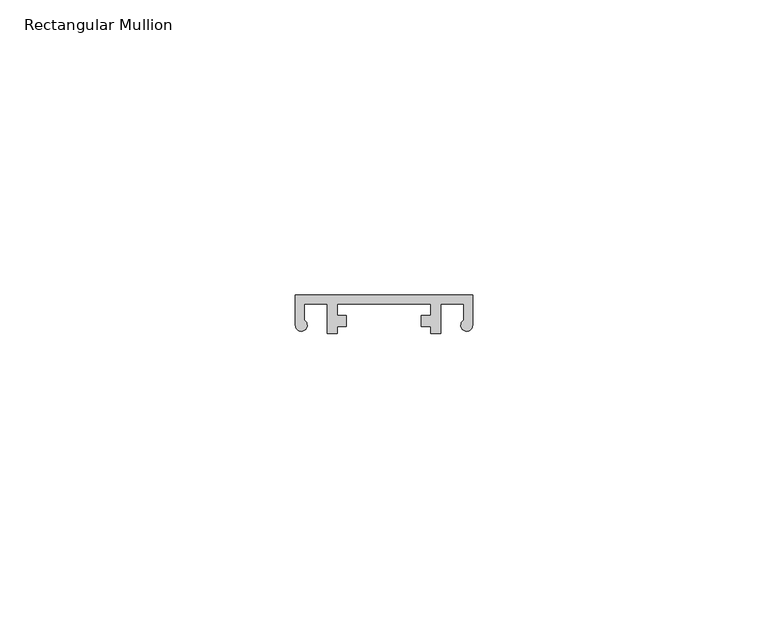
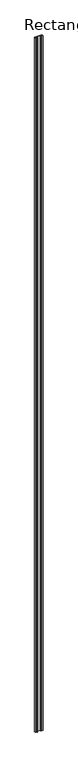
"""IFC4 building model written with IfcOpenShell, lengths in millimetres: member geometry, Rectangular Mullion : NLRS_21_CWM_drager LD.0065_Storax."""

from ifc_helpers import new_model, si_unit, point, frame, frame_2d, origin, place, context, project, spatial, polyline, circle_curve, trimmed, segment, composite_curve, outline, extrude, source, transform, mapped, element, save


def rectangular_mullion_42be434b(model_context):
    return source(origin(), model_context, "Body", "SweptSolid", [
        extrude(outline(composite_curve([segment(trimmed(circle_curve(frame_2d((14.0, -6.1202978)), 1.0), [point((15.0, -6.1202978))], [point((13.5203905, -5.2428158))], False, "CARTESIAN"), True, "CONTINUOUS"), segment(polyline([(13.5203905, -5.2428158), (13.5203905, -2.5), (9.6475726, -2.5), (9.6475726, -7.5), (7.8869401, -7.5), (7.8869401, -6.2999542), (6.3475726, -6.2999542), (6.3475726, -4.4494935), (7.8869401, -4.4494935), (7.8869401, -2.5), (-7.8869401, -2.5), (-7.8869401, -4.4494935), (-6.3598609, -4.4494935), (-6.3598609, -6.2999542), (-7.8869401, -6.2999542), (-7.8869401, -7.5), (-9.6475726, -7.5), (-9.6475726, -2.5), (-13.5203905, -2.5), (-13.5203905, -5.2428158)]), True, "CONTINUOUS"), segment(trimmed(circle_curve(frame_2d((-14.0, -6.1202978)), 1.0), [point((-13.5203905, -5.2428158))], [point((-15.0, -6.1202978))], False, "CARTESIAN"), True, "CONTINUOUS"), segment(polyline([(-15.0, -6.1202978), (-15.0, -1.0), (15.0, -1.0), (15.0, -6.1202978)]), True, "CONTINUOUS")], self_intersect=False)), frame((0.0, 0.0, -3000.0), z_axis=(0.0, 0.0, 1.0), x_axis=(1.0, 0.0, 0.0)), (0.0, 0.0, 1.0), 3000.0),
    ])


if __name__ == "__main__":
    model = new_model("IFC4")
    model_context = context("Model", 3, world=origin())
    ifc_project = project(units=[si_unit("LENGTHUNIT", "METRE", prefix="MILLI")], contexts=[model_context])
    site = spatial("IfcSite", under=ifc_project)
    building = spatial("IfcBuilding", under=site)
    placement = place(None, origin())
    rectangular_mullion_shape = rectangular_mullion_42be434b(model_context)
    element("IfcMember", 1, ObjectType="Rectangular Mullion : NLRS_21_CWM_drager LD.0065_Storax", at=placement, inside=building, context=model_context, shape_type="MappedRepresentation", body=[
        mapped(rectangular_mullion_shape, transform((0.0, 0.0, 0.0), x_axis=(1.0, 0.0, 0.0), y_axis=(0.0, 1.0, 0.0), z_axis=(0.0, 0.0, 1.0))),
    ])
    save(model, "model.ifc")
